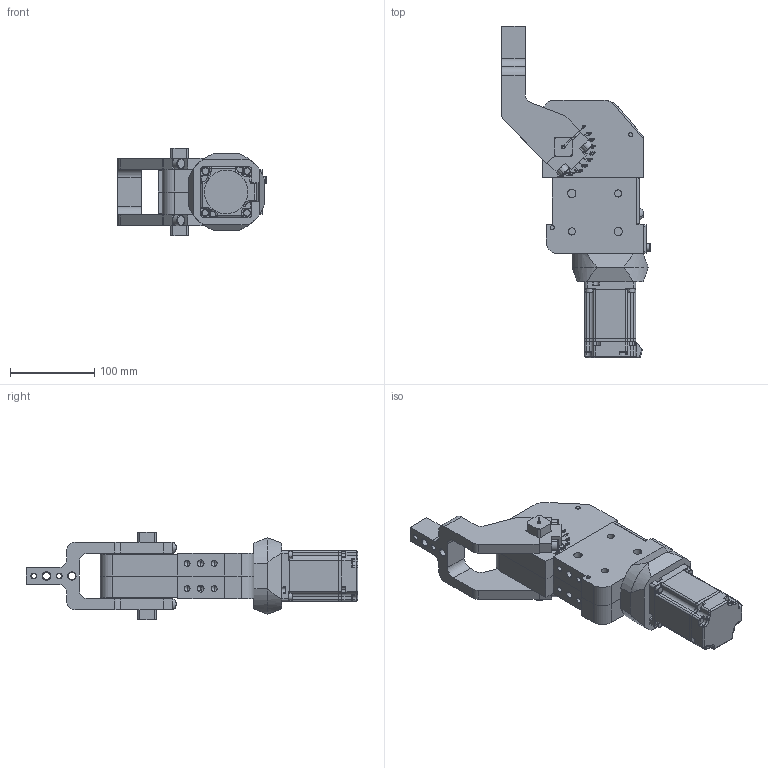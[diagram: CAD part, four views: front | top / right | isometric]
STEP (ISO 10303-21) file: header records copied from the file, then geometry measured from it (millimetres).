
FILE_DESCRIPTION (( 'STEP AP214' ), '1' );
FILE_NAME ('WEPC-063-135-02-40-WD10 (3D).STEP', '2024-10-30T06:35:59', ( '' ), ( '' ), 'SwSTEP 2.0', 'SolidWorks 2023', '' );
FILE_SCHEMA (( 'AUTOMOTIVE_DESIGN' ));
Length unit declared in the file: millimetre
Products named in the file (8): socket head cap screw_din-51^WEPC-063-135-02-40-WD10; __1_60-400w-1^WEPC-063-135-02-40-WD10; Group2^WEPC-063-135-02-40-WD10; socket head cap screw_din-54^WEPC-063-135-02-40-WD10; Group1^WEPC-063-135-02-40-WD10; socket head cap screw_din-52^WEPC-063-135-02-40-WD10; WEPC-063-135-02-40-WD10 (3D); socket head cap screw_din-53^WEPC-063-135-02-40-WD10
Assembly tree (7 placements, depth 2):
  WEPC-063-135-02-40-WD10 (3D)
    Group1^WEPC-063-135-02-40-WD10
    Group2^WEPC-063-135-02-40-WD10
    socket head cap screw_din-52^WEPC-063-135-02-40-WD10
    socket head cap screw_din-54^WEPC-063-135-02-40-WD10
    socket head cap screw_din-53^WEPC-063-135-02-40-WD10
    socket head cap screw_din-51^WEPC-063-135-02-40-WD10
    __1_60-400w-1^WEPC-063-135-02-40-WD10
Bounding box: 176 x 392.51 x 104 mm (x, y, z)
Volume: 1768572.7 mm3; surface area: 297382.8 mm2
Topology: 55 solids, 67 shells, 2125 faces, 5094 edges, 3207 vertices
Faces by surface type: plane 809, bspline 487, cylinder 468, cone 200, torus 147, sphere 14
Entity records: 91696 total; most frequent: CARTESIAN_POINT 44377, ORIENTED_EDGE 9996, DIRECTION 8722, EDGE_CURVE 4998, VERTEX_POINT 3207, AXIS2_PLACEMENT_3D 3084, LINE 2554, VECTOR 2554
